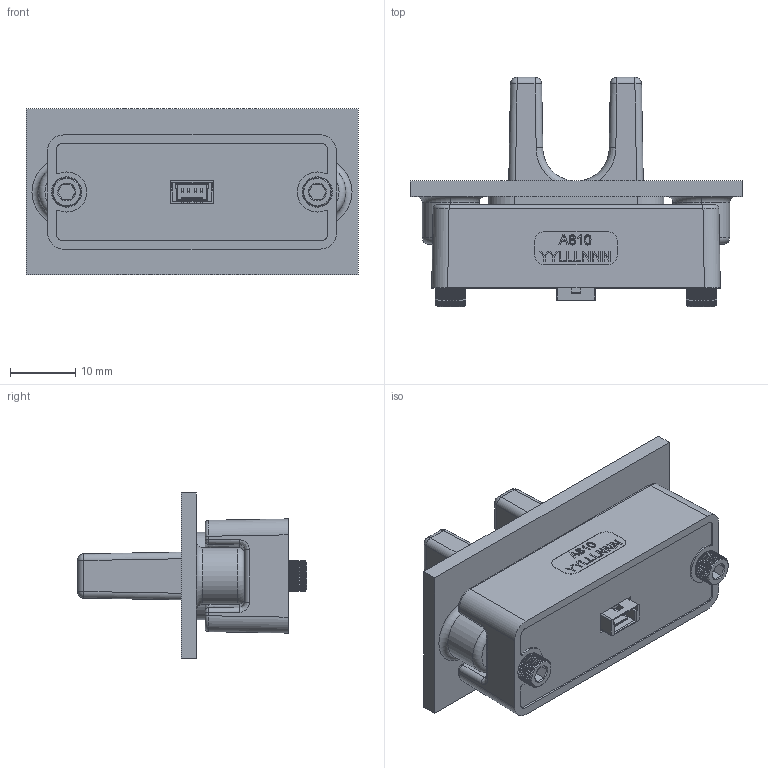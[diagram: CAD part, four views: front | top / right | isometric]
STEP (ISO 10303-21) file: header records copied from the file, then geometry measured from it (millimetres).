
FILE_DESCRIPTION (( 'STEP AP214' ), '1' );
FILE_NAME ('SMD8163-A810_MOUNTING.STEP', '2021-03-02T21:14:12', ( '' ), ( '' ), 'SwSTEP 2.0', 'SolidWorks 2020', '' );
FILE_SCHEMA (( 'AUTOMOTIVE_DESIGN' ));
Length unit declared in the file: inch
Products named in the file (8): SMD8172-A810_C; SMD8164-A810_C; SMD8163-A810_MOUNTING; A810 701-8663_C; PennEngineering_IBB-440-6; Molex_5013310407; McMaster_92196A109_92196A109; A810_Panel_Example
Assembly tree (9 placements, depth 2):
  SMD8163-A810_MOUNTING
    SMD8164-A810_C
    A810 701-8663_C
    Molex_5013310407
    A810_Panel_Example
    SMD8172-A810_C
    McMaster_92196A109_92196A109  x2
    PennEngineering_IBB-440-6  x2
Bounding box: 50.8 x 35.08 x 25.4 mm (x, y, z)
Volume: 14170.3 mm3; surface area: 9189 mm2
Topology: 9 solids, 9 shells, 1145 faces, 2866 edges, 1776 vertices
Faces by surface type: plane 614, cylinder 266, cone 166, bspline 75, torus 16, sphere 8
Entity records: 31419 total; most frequent: CARTESIAN_POINT 10317, ORIENTED_EDGE 4266, DIRECTION 3465, EDGE_CURVE 2133, VERTEX_POINT 1342, LINE 1245, VECTOR 1245, AXIS2_PLACEMENT_3D 1110
